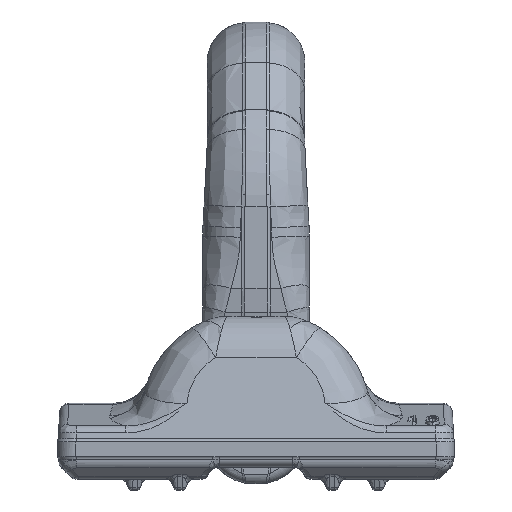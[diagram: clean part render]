
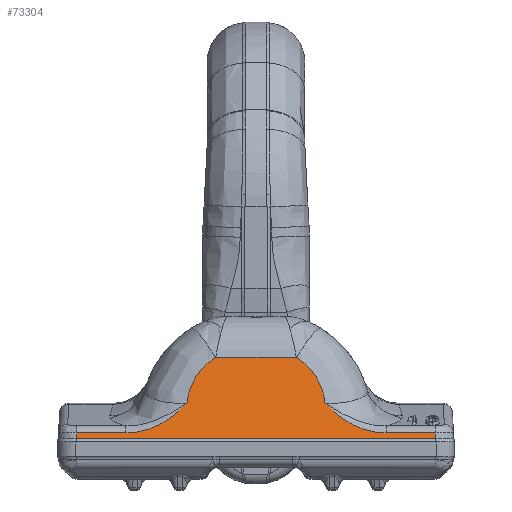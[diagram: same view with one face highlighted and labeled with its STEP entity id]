
A CAD part, left-side view. The second image highlights one B-rep face of the part: STEP entity #73304.
In plain terms, the highlighted planar face has unit normal (-0.978, 0, 0.208).
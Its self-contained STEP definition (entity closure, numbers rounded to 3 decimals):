
#52496=CARTESIAN_POINT('',(-128.413,58.974,-2.666
));
#52497=VERTEX_POINT('Vertex942',#52496);
#52585=CARTESIAN_POINT('',(-128.413,-58.974,
-2.666));
#52586=VERTEX_POINT('Vertex943',#52585);
#52594=CARTESIAN_POINT('',(-128.413,0.,
-2.666));
#52595=DIRECTION('',(0.,1.,0.));
#52596=VECTOR('',#52595,1.);
#52597=LINE('nurbsCrv1550',#52594,#52596);
#52598=EDGE_CURVE('Edge1550',#52586,#52497,#52597,.T.);
#58626=CARTESIAN_POINT('',(-128.013,-58.875,
-0.781));
#58627=VERTEX_POINT('Vertex1138',#58626);
#58791=CARTESIAN_POINT('',(-128.013,-42.712,
-0.781));
#58792=VERTEX_POINT('Vertex1139',#58791);
#58800=CARTESIAN_POINT('',(-128.013,-50.793,
-0.781));
#58801=DIRECTION('',(0.,1.,0.));
#58802=VECTOR('',#58801,1.);
#58803=LINE('nurbsCrv1856',#58800,#58802);
#58804=EDGE_CURVE('Edge1856',#58627,#58792,#58803,.T.);
#58816=CARTESIAN_POINT('',(-125.934,-22.71,8.997
));
#58817=VERTEX_POINT('Vertex1140',#58816);
#58818=CARTESIAN_POINT('',(-128.013,-42.712,
-0.781));
#58819=CARTESIAN_POINT('',(-128.013,-41.73,
-0.781));
#58820=CARTESIAN_POINT('',(-127.999,-40.743,
-0.716));
#58821=CARTESIAN_POINT('',(-127.928,-38.195,
-0.383));
#58822=CARTESIAN_POINT('',(-127.85,-36.645,
-0.016));
#58823=CARTESIAN_POINT('',(-127.571,-32.777,1.296)
);
#58824=CARTESIAN_POINT('',(-127.322,-30.522,2.468)
);
#58825=CARTESIAN_POINT('',(-126.707,-26.36,5.362
));
#58826=CARTESIAN_POINT('',(-126.336,-24.458,7.108
));
#58827=CARTESIAN_POINT('',(-125.936,-22.719,8.988)
);
#58828=CARTESIAN_POINT('',(-125.935,-22.715,8.993
));
#58829=CARTESIAN_POINT('',(-125.934,-22.71,8.997
));
#58830=B_SPLINE_CURVE_WITH_KNOTS('nurbsCrv1857',3,(#58818,#58819,#58820,#58821,
#58822,#58823,#58824,#58825,#58826,#58827,#58828,#58829),.UNSPECIFIED.,.F.,.F.,
(4,2,2,2,2,4),(0.,2.945,7.657,15.197,
22.952,22.971),.UNSPECIFIED.);
#58831=EDGE_CURVE('Edge1857',#58792,#58817,#58830,.T.);
#58973=CARTESIAN_POINT('',(-128.213,-58.925,-1.723
));
#58974=DIRECTION('',(0.208,0.051,0.977));
#58975=VECTOR('',#58974,1.);
#58976=LINE('nurbsCrv1860',#58973,#58975);
#58977=EDGE_CURVE('Edge1860',#52586,#58627,#58976,.T.);
#70758=CARTESIAN_POINT('',(-122.738,-13.269,24.034
));
#70759=VERTEX_POINT('Vertex1295',#70758);
#70767=CARTESIAN_POINT('',(-126.362,-2.812,6.986)
);
#70768=DIRECTION('',(-0.978,0.,
0.208));
#70769=DIRECTION('',(0.208,0.,0.978)
);
#70770=AXIS2_PLACEMENT_3D('',#70767,#70768,#70769);
#70771=ELLIPSE('nurbsCrv2141',#70770,20.447,20.);
#70772=EDGE_CURVE('Edge2141',#58817,#70759,#70771,.T.);
#72915=CARTESIAN_POINT('',(-128.013,58.875,
-0.781));
#72916=VERTEX_POINT('Vertex1311',#72915);
#73088=CARTESIAN_POINT('',(-128.013,42.712,
-0.781));
#73089=VERTEX_POINT('Vertex1313',#73088);
#73106=CARTESIAN_POINT('',(-128.013,50.793,
-0.781));
#73107=DIRECTION('',(0.,-1.,0.));
#73108=VECTOR('',#73107,1.);
#73109=LINE('nurbsCrv2179',#73106,#73108);
#73110=EDGE_CURVE('Edge2179',#72916,#73089,#73109,.T.);
#73120=CARTESIAN_POINT('',(-125.934,22.71,8.997)
);
#73121=VERTEX_POINT('Vertex1314',#73120);
#73122=CARTESIAN_POINT('',(-128.013,42.712,
-0.781));
#73123=CARTESIAN_POINT('',(-128.013,41.73,
-0.781));
#73124=CARTESIAN_POINT('',(-127.999,40.743,-0.716
));
#73125=CARTESIAN_POINT('',(-127.928,38.195,
-0.383));
#73126=CARTESIAN_POINT('',(-127.85,36.645,
-0.016));
#73127=CARTESIAN_POINT('',(-127.571,32.777,1.296)
);
#73128=CARTESIAN_POINT('',(-127.322,30.522,2.468));
#73129=CARTESIAN_POINT('',(-126.707,26.36,5.362)
);
#73130=CARTESIAN_POINT('',(-126.336,24.458,7.108));
#73131=CARTESIAN_POINT('',(-125.936,22.719,8.988)
);
#73132=CARTESIAN_POINT('',(-125.935,22.715,8.993)
);
#73133=CARTESIAN_POINT('',(-125.934,22.71,8.997)
);
#73134=B_SPLINE_CURVE_WITH_KNOTS('nurbsCrv2180',3,(#73122,#73123,#73124,#73125,
#73126,#73127,#73128,#73129,#73130,#73131,#73132,#73133),.UNSPECIFIED.,.F.,.F.,
(4,2,2,2,2,4),(0.,2.945,7.657,15.197,
22.952,22.971),.UNSPECIFIED.);
#73135=EDGE_CURVE('Edge2180',#73089,#73121,#73134,.T.);
#73269=ORIENTED_EDGE('Edgeuse4303',*,*,#52598,.F.);
#73270=ORIENTED_EDGE('Edgeuse4304',*,*,#58977,.T.);
#73271=ORIENTED_EDGE('Edgeuse4305',*,*,#58804,.T.);
#73272=ORIENTED_EDGE('Edgeuse4306',*,*,#58831,.T.);
#73273=ORIENTED_EDGE('Edgeuse4307',*,*,#70772,.T.);
#73274=CARTESIAN_POINT('',(-122.738,13.269,24.034)
);
#73275=VERTEX_POINT('Vertex1315',#73274);
#73276=CARTESIAN_POINT('',(-122.738,0.,
24.034));
#73277=DIRECTION('',(0.,-1.,0.));
#73278=VECTOR('',#73277,1.);
#73279=LINE('nurbsCrv2182',#73276,#73278);
#73280=EDGE_CURVE('Edge2182',#73275,#70759,#73279,.T.);
#73281=ORIENTED_EDGE('Edgeuse4308',*,*,#73280,.F.);
#73282=CARTESIAN_POINT('',(-126.362,2.812,6.986)
);
#73283=DIRECTION('',(0.978,0.,
-0.208));
#73284=DIRECTION('',(0.208,0.,0.978)
);
#73285=AXIS2_PLACEMENT_3D('',#73282,#73283,#73284);
#73286=ELLIPSE('nurbsCrv2183',#73285,20.447,20.);
#73287=EDGE_CURVE('Edge2183',#73121,#73275,#73286,.T.);
#73288=ORIENTED_EDGE('Edgeuse4309',*,*,#73287,.F.);
#73289=ORIENTED_EDGE('Edgeuse4310',*,*,#73135,.F.);
#73290=ORIENTED_EDGE('Edgeuse4311',*,*,#73110,.F.);
#73291=CARTESIAN_POINT('',(-128.213,58.925,-1.723)
);
#73292=DIRECTION('',(0.208,-0.051,0.977));
#73293=VECTOR('',#73292,1.);
#73294=LINE('nurbsCrv2184',#73291,#73293);
#73295=EDGE_CURVE('Edge2184',#52497,#72916,#73294,.T.);
#73296=ORIENTED_EDGE('Edgeuse4312',*,*,#73295,.F.);
#73297=EDGE_LOOP('',(#73269,#73270,#73271,#73272,#73273,#73281,#73288,#73289,
#73290,#73296));
#73298=FACE_OUTER_BOUND('',#73297,.T.);
#73299=CARTESIAN_POINT('',(-126.634,-1.628,5.706
));
#73300=DIRECTION('',(-0.978,0.,0.208
));
#73301=DIRECTION('',(0.204,-0.204,0.958));
#73302=AXIS2_PLACEMENT_3D('',#73299,#73300,#73301);
#73303=PLANE('nurbsSrf883',#73302);
#73304=ADVANCED_FACE('Face883',(#73298),#73303,.T.);
